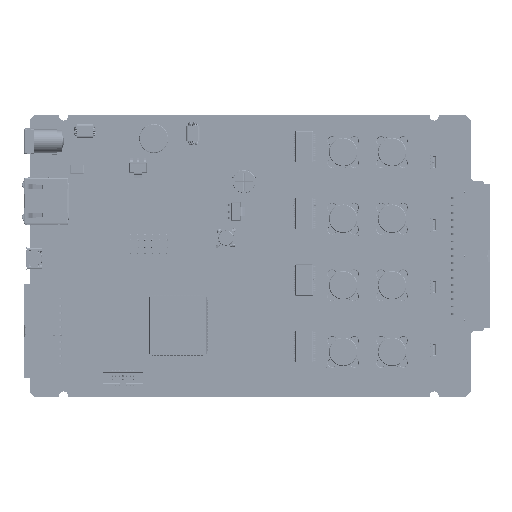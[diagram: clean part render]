
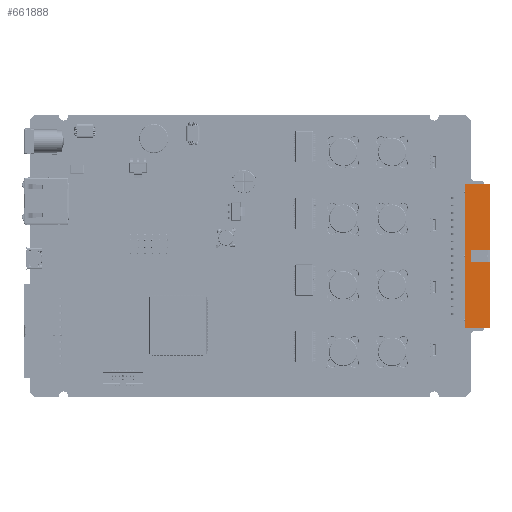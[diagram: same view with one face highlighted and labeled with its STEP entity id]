
A CAD part, top view. The second image highlights one B-rep face of the part: STEP entity #661888.
In plain terms, the highlighted planar face has unit normal (0, 0, 1).
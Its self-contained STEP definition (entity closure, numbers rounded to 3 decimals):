
#661888 = ADVANCED_FACE('',(#661889),#661955,.F.);
#661889 = FACE_BOUND('',#661890,.T.);
#661890 = EDGE_LOOP('',(#661891,#661901,#661909,#661917,#661925,#661933,
    #661941,#661949));
#661891 = ORIENTED_EDGE('',*,*,#661892,.F.);
#661892 = EDGE_CURVE('',#661893,#661895,#661897,.T.);
#661893 = VERTEX_POINT('',#661894);
#661894 = CARTESIAN_POINT('',(155.199,47.5,
    9.225));
#661895 = VERTEX_POINT('',#661896);
#661896 = CARTESIAN_POINT('',(161.999,47.5,
    9.225));
#661897 = LINE('',#661898,#661899);
#661898 = CARTESIAN_POINT('',(155.199,47.5,
    9.225));
#661899 = VECTOR('',#661900,1.);
#661900 = DIRECTION('',(1.,0.,0.));
#661901 = ORIENTED_EDGE('',*,*,#661902,.T.);
#661902 = EDGE_CURVE('',#661893,#661903,#661905,.T.);
#661903 = VERTEX_POINT('',#661904);
#661904 = CARTESIAN_POINT('',(155.199,52.,
    9.225));
#661905 = LINE('',#661906,#661907);
#661906 = CARTESIAN_POINT('',(155.199,47.5,
    9.225));
#661907 = VECTOR('',#661908,1.);
#661908 = DIRECTION('',(0.,1.,0.));
#661909 = ORIENTED_EDGE('',*,*,#661910,.T.);
#661910 = EDGE_CURVE('',#661903,#661911,#661913,.T.);
#661911 = VERTEX_POINT('',#661912);
#661912 = CARTESIAN_POINT('',(161.999,52.,
    9.225));
#661913 = LINE('',#661914,#661915);
#661914 = CARTESIAN_POINT('',(155.199,52.,
    9.225));
#661915 = VECTOR('',#661916,1.);
#661916 = DIRECTION('',(1.,0.,0.));
#661917 = ORIENTED_EDGE('',*,*,#661918,.F.);
#661918 = EDGE_CURVE('',#661919,#661911,#661921,.T.);
#661919 = VERTEX_POINT('',#661920);
#661920 = CARTESIAN_POINT('',(161.999,75.17,
    9.225));
#661921 = LINE('',#661922,#661923);
#661922 = CARTESIAN_POINT('',(161.999,75.17,
    9.225));
#661923 = VECTOR('',#661924,1.);
#661924 = DIRECTION('',(0.,-1.,0.));
#661925 = ORIENTED_EDGE('',*,*,#661926,.F.);
#661926 = EDGE_CURVE('',#661927,#661919,#661929,.T.);
#661927 = VERTEX_POINT('',#661928);
#661928 = CARTESIAN_POINT('',(153.149,75.17,
    9.225));
#661929 = LINE('',#661930,#661931);
#661930 = CARTESIAN_POINT('',(153.149,75.17,
    9.225));
#661931 = VECTOR('',#661932,1.);
#661932 = DIRECTION('',(1.,0.,0.));
#661933 = ORIENTED_EDGE('',*,*,#661934,.F.);
#661934 = EDGE_CURVE('',#661935,#661927,#661937,.T.);
#661935 = VERTEX_POINT('',#661936);
#661936 = CARTESIAN_POINT('',(153.149,24.33,
    9.225));
#661937 = LINE('',#661938,#661939);
#661938 = CARTESIAN_POINT('',(153.149,24.33,
    9.225));
#661939 = VECTOR('',#661940,1.);
#661940 = DIRECTION('',(0.,1.,0.));
#661941 = ORIENTED_EDGE('',*,*,#661942,.F.);
#661942 = EDGE_CURVE('',#661943,#661935,#661945,.T.);
#661943 = VERTEX_POINT('',#661944);
#661944 = CARTESIAN_POINT('',(161.999,24.33,
    9.225));
#661945 = LINE('',#661946,#661947);
#661946 = CARTESIAN_POINT('',(161.999,24.33,
    9.225));
#661947 = VECTOR('',#661948,1.);
#661948 = DIRECTION('',(-1.,0.,0.));
#661949 = ORIENTED_EDGE('',*,*,#661950,.F.);
#661950 = EDGE_CURVE('',#661895,#661943,#661951,.T.);
#661951 = LINE('',#661952,#661953);
#661952 = CARTESIAN_POINT('',(161.999,75.17,
    9.225));
#661953 = VECTOR('',#661954,1.);
#661954 = DIRECTION('',(0.,-1.,0.));
#661955 = PLANE('',#661956);
#661956 = AXIS2_PLACEMENT_3D('',#661957,#661958,#661959);
#661957 = CARTESIAN_POINT('',(157.574,49.75,
    9.225));
#661958 = DIRECTION('',(0.,0.,-1.));
#661959 = DIRECTION('',(1.,0.,0.));
